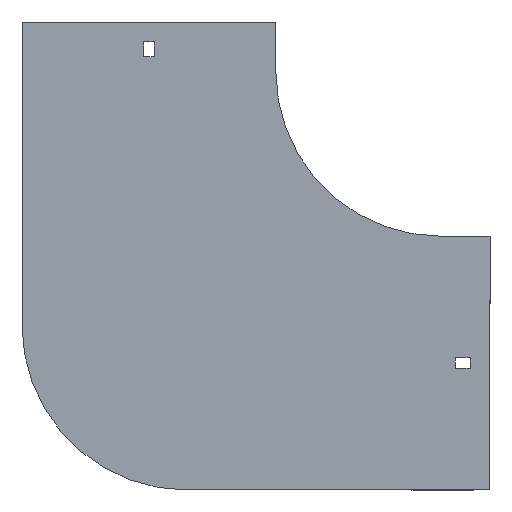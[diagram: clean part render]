
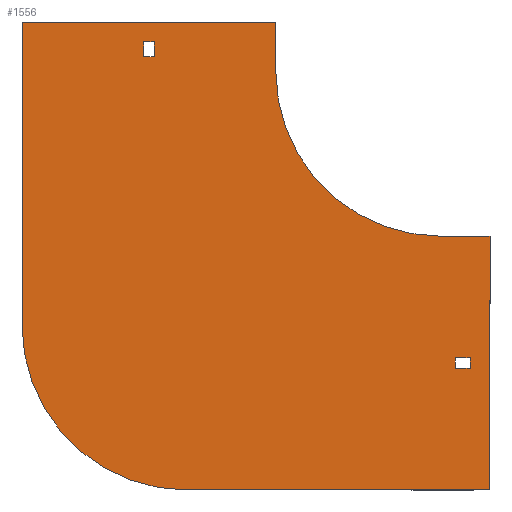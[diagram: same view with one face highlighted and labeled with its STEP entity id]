
A CAD part, front view. The second image highlights one B-rep face of the part: STEP entity #1556.
In plain terms, the highlighted planar face has unit normal (0, -1, 0).
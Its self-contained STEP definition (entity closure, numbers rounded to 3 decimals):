
#13 = DIRECTION ( 'NONE',  ( 0., -1., 0. ) ) ;
#23 = EDGE_CURVE ( 'NONE', #1697, #564, #118, .T. ) ;
#27 = VERTEX_POINT ( 'NONE', #86 ) ;
#42 = AXIS2_PLACEMENT_3D ( 'NONE', #1847, #482, #1095 ) ;
#56 = CARTESIAN_POINT ( 'NONE',  ( 18., 0., -180.25 ) ) ;
#76 = VECTOR ( 'NONE', #1053, 1000. ) ;
#86 = CARTESIAN_POINT ( 'NONE',  ( -154., 0., -254. ) ) ;
#89 = VERTEX_POINT ( 'NONE', #151 ) ;
#97 = AXIS2_PLACEMENT_3D ( 'NONE', #393, #13, #1670 ) ;
#118 = LINE ( 'NONE', #360, #869 ) ;
#127 = CARTESIAN_POINT ( 'NONE',  ( -180.25, 0., 9. ) ) ;
#140 = CARTESIAN_POINT ( 'NONE',  ( -180.25, 0., 18. ) ) ;
#151 = CARTESIAN_POINT ( 'NONE',  ( -173.75, 0., 18. ) ) ;
#183 = CARTESIAN_POINT ( 'NONE',  ( -100., 0., 0. ) ) ;
#186 = DIRECTION ( 'NONE',  ( 1., 0., 0. ) ) ;
#192 = ORIENTED_EDGE ( 'NONE', *, *, #1087, .F. ) ;
#204 = DIRECTION ( 'NONE',  ( 0., 0., -1. ) ) ;
#211 = EDGE_CURVE ( 'NONE', #339, #472, #429, .T. ) ;
#235 = EDGE_LOOP ( 'NONE', ( #271, #311, #1158, #268 ) ) ;
#237 = VERTEX_POINT ( 'NONE', #1093 ) ;
#244 = VERTEX_POINT ( 'NONE', #1862 ) ;
#249 = VERTEX_POINT ( 'NONE', #1677 ) ;
#268 = ORIENTED_EDGE ( 'NONE', *, *, #211, .T. ) ;
#271 = ORIENTED_EDGE ( 'NONE', *, *, #1260, .T. ) ;
#272 = DIRECTION ( 'NONE',  ( 0., 0., -1. ) ) ;
#282 = VERTEX_POINT ( 'NONE', #947 ) ;
#296 = EDGE_CURVE ( 'NONE', #249, #1697, #1240, .T. ) ;
#302 = EDGE_CURVE ( 'NONE', #282, #1112, #488, .T. ) ;
#311 = ORIENTED_EDGE ( 'NONE', *, *, #1269, .T. ) ;
#312 = CARTESIAN_POINT ( 'NONE',  ( -254., 0., 30. ) ) ;
#322 = LINE ( 'NONE', #638, #1788 ) ;
#339 = VERTEX_POINT ( 'NONE', #365 ) ;
#360 = CARTESIAN_POINT ( 'NONE',  ( 9., 0., -173.75 ) ) ;
#365 = CARTESIAN_POINT ( 'NONE',  ( -173.75, 0., 9. ) ) ;
#366 = VERTEX_POINT ( 'NONE', #841 ) ;
#382 = VECTOR ( 'NONE', #1915, 1000. ) ;
#393 = CARTESIAN_POINT ( 'NONE',  ( 0., 0., 0. ) ) ;
#429 = LINE ( 'NONE', #876, #76 ) ;
#452 = FACE_BOUND ( 'NONE', #1432, .T. ) ;
#455 = LINE ( 'NONE', #1050, #597 ) ;
#456 = VECTOR ( 'NONE', #204, 1000. ) ;
#466 = DIRECTION ( 'NONE',  ( 0., 0., -1. ) ) ;
#472 = VERTEX_POINT ( 'NONE', #967 ) ;
#477 = DIRECTION ( 'NONE',  ( 0., 0., -1. ) ) ;
#482 = DIRECTION ( 'NONE',  ( 0., 1., 0. ) ) ;
#488 = LINE ( 'NONE', #1103, #731 ) ;
#504 = VECTOR ( 'NONE', #272, 1000. ) ;
#545 = ORIENTED_EDGE ( 'NONE', *, *, #1200, .F. ) ;
#548 = VERTEX_POINT ( 'NONE', #312 ) ;
#564 = VERTEX_POINT ( 'NONE', #1709 ) ;
#570 = VECTOR ( 'NONE', #1539, 1000. ) ;
#587 = EDGE_CURVE ( 'NONE', #27, #995, #1550, .T. ) ;
#597 = VECTOR ( 'NONE', #477, 1000. ) ;
#600 = ORIENTED_EDGE ( 'NONE', *, *, #1546, .F. ) ;
#601 = LINE ( 'NONE', #935, #1715 ) ;
#618 = LINE ( 'NONE', #1737, #619 ) ;
#619 = VECTOR ( 'NONE', #1716, 1000. ) ;
#629 = EDGE_LOOP ( 'NONE', ( #807, #600, #1636, #192, #1754, #1371, #1000, #545 ) ) ;
#638 = CARTESIAN_POINT ( 'NONE',  ( 9., 0., -180.25 ) ) ;
#643 = DIRECTION ( 'NONE',  ( 0., 0., -1. ) ) ;
#653 = CARTESIAN_POINT ( 'NONE',  ( 30., 0., -254. ) ) ;
#658 = VERTEX_POINT ( 'NONE', #1764 ) ;
#666 = VECTOR ( 'NONE', #987, 1000. ) ;
#683 = CARTESIAN_POINT ( 'NONE',  ( 9., 0., -180.25 ) ) ;
#731 = VECTOR ( 'NONE', #643, 1000. ) ;
#806 = DIRECTION ( 'NONE',  ( 0., 0., 1. ) ) ;
#807 = ORIENTED_EDGE ( 'NONE', *, *, #1419, .F. ) ;
#817 = LINE ( 'NONE', #1896, #666 ) ;
#841 = CARTESIAN_POINT ( 'NONE',  ( 9., 0., -180.25 ) ) ;
#869 = VECTOR ( 'NONE', #1767, 1000. ) ;
#876 = CARTESIAN_POINT ( 'NONE',  ( -180.25, 0., 9. ) ) ;
#935 = CARTESIAN_POINT ( 'NONE',  ( 0., 0., -100. ) ) ;
#943 = CARTESIAN_POINT ( 'NONE',  ( 0., 0., 0. ) ) ;
#947 = CARTESIAN_POINT ( 'NONE',  ( 30., 0., -100. ) ) ;
#951 = EDGE_CURVE ( 'NONE', #244, #282, #601, .T. ) ;
#953 = FACE_BOUND ( 'NONE', #235, .T. ) ;
#955 = AXIS2_PLACEMENT_3D ( 'NONE', #943, #1500, #466 ) ;
#958 = ORIENTED_EDGE ( 'NONE', *, *, #1471, .F. ) ;
#967 = CARTESIAN_POINT ( 'NONE',  ( -180.25, 0., 9. ) ) ;
#983 = ORIENTED_EDGE ( 'NONE', *, *, #296, .F. ) ;
#987 = DIRECTION ( 'NONE',  ( -1., 0., 0. ) ) ;
#995 = VERTEX_POINT ( 'NONE', #1429 ) ;
#1000 = ORIENTED_EDGE ( 'NONE', *, *, #1323, .F. ) ;
#1041 = DIRECTION ( 'NONE',  ( 0., 0., 1. ) ) ;
#1050 = CARTESIAN_POINT ( 'NONE',  ( -173.75, 0., 9. ) ) ;
#1053 = DIRECTION ( 'NONE',  ( -1., 0., 0. ) ) ;
#1079 = ORIENTED_EDGE ( 'NONE', *, *, #1871, .F. ) ;
#1087 = EDGE_CURVE ( 'NONE', #1112, #27, #817, .T. ) ;
#1093 = CARTESIAN_POINT ( 'NONE',  ( -180.25, 0., 18. ) ) ;
#1095 = DIRECTION ( 'NONE',  ( 0., 0., 1. ) ) ;
#1103 = CARTESIAN_POINT ( 'NONE',  ( 30., 0., -100. ) ) ;
#1112 = VERTEX_POINT ( 'NONE', #653 ) ;
#1116 = ORIENTED_EDGE ( 'NONE', *, *, #23, .F. ) ;
#1153 = PLANE ( 'NONE',  #97 ) ;
#1158 = ORIENTED_EDGE ( 'NONE', *, *, #1359, .T. ) ;
#1172 = LINE ( 'NONE', #127, #1780 ) ;
#1200 = EDGE_CURVE ( 'NONE', #658, #1878, #1789, .T. ) ;
#1240 = LINE ( 'NONE', #56, #570 ) ;
#1260 = EDGE_CURVE ( 'NONE', #472, #237, #1172, .T. ) ;
#1266 = LINE ( 'NONE', #683, #456 ) ;
#1269 = EDGE_CURVE ( 'NONE', #237, #89, #1493, .T. ) ;
#1289 = CARTESIAN_POINT ( 'NONE',  ( -254., 0., -154. ) ) ;
#1314 = CARTESIAN_POINT ( 'NONE',  ( -100., 0., 30. ) ) ;
#1323 = EDGE_CURVE ( 'NONE', #1878, #244, #1930, .T. ) ;
#1359 = EDGE_CURVE ( 'NONE', #89, #339, #455, .T. ) ;
#1371 = ORIENTED_EDGE ( 'NONE', *, *, #951, .F. ) ;
#1384 = CARTESIAN_POINT ( 'NONE',  ( 18., 0., -173.75 ) ) ;
#1419 = EDGE_CURVE ( 'NONE', #548, #658, #618, .T. ) ;
#1429 = CARTESIAN_POINT ( 'NONE',  ( -254., 0., -154. ) ) ;
#1432 = EDGE_LOOP ( 'NONE', ( #983, #1079, #958, #1116 ) ) ;
#1438 = LINE ( 'NONE', #1289, #1536 ) ;
#1471 = EDGE_CURVE ( 'NONE', #564, #366, #1266, .T. ) ;
#1493 = LINE ( 'NONE', #140, #382 ) ;
#1500 = DIRECTION ( 'NONE',  ( 0., -1., 0. ) ) ;
#1536 = VECTOR ( 'NONE', #806, 1000. ) ;
#1539 = DIRECTION ( 'NONE',  ( 0., 0., 1. ) ) ;
#1546 = EDGE_CURVE ( 'NONE', #995, #548, #1438, .T. ) ;
#1549 = FACE_OUTER_BOUND ( 'NONE', #629, .T. ) ;
#1550 = CIRCLE ( 'NONE', #42, 100. ) ;
#1556 = ADVANCED_FACE ( 'NONE', ( #953, #1549, #452 ), #1153, .T. ) ;
#1636 = ORIENTED_EDGE ( 'NONE', *, *, #587, .F. ) ;
#1670 = DIRECTION ( 'NONE',  ( 0., 0., -1. ) ) ;
#1677 = CARTESIAN_POINT ( 'NONE',  ( 18., 0., -180.25 ) ) ;
#1697 = VERTEX_POINT ( 'NONE', #1384 ) ;
#1709 = CARTESIAN_POINT ( 'NONE',  ( 9., 0., -173.75 ) ) ;
#1715 = VECTOR ( 'NONE', #186, 1000. ) ;
#1716 = DIRECTION ( 'NONE',  ( 1., 0., 0. ) ) ;
#1737 = CARTESIAN_POINT ( 'NONE',  ( -254., 0., 30. ) ) ;
#1754 = ORIENTED_EDGE ( 'NONE', *, *, #302, .F. ) ;
#1764 = CARTESIAN_POINT ( 'NONE',  ( -100., 0., 30. ) ) ;
#1767 = DIRECTION ( 'NONE',  ( -1., 0., 0. ) ) ;
#1780 = VECTOR ( 'NONE', #1041, 1000. ) ;
#1788 = VECTOR ( 'NONE', #1858, 1000. ) ;
#1789 = LINE ( 'NONE', #1314, #504 ) ;
#1847 = CARTESIAN_POINT ( 'NONE',  ( -154., 0., -154. ) ) ;
#1858 = DIRECTION ( 'NONE',  ( 1., 0., 0. ) ) ;
#1862 = CARTESIAN_POINT ( 'NONE',  ( 0., 0., -100. ) ) ;
#1871 = EDGE_CURVE ( 'NONE', #366, #249, #322, .T. ) ;
#1878 = VERTEX_POINT ( 'NONE', #183 ) ;
#1896 = CARTESIAN_POINT ( 'NONE',  ( 30., 0., -254. ) ) ;
#1915 = DIRECTION ( 'NONE',  ( 1., 0., 0. ) ) ;
#1930 = CIRCLE ( 'NONE', #955, 100. ) ;
